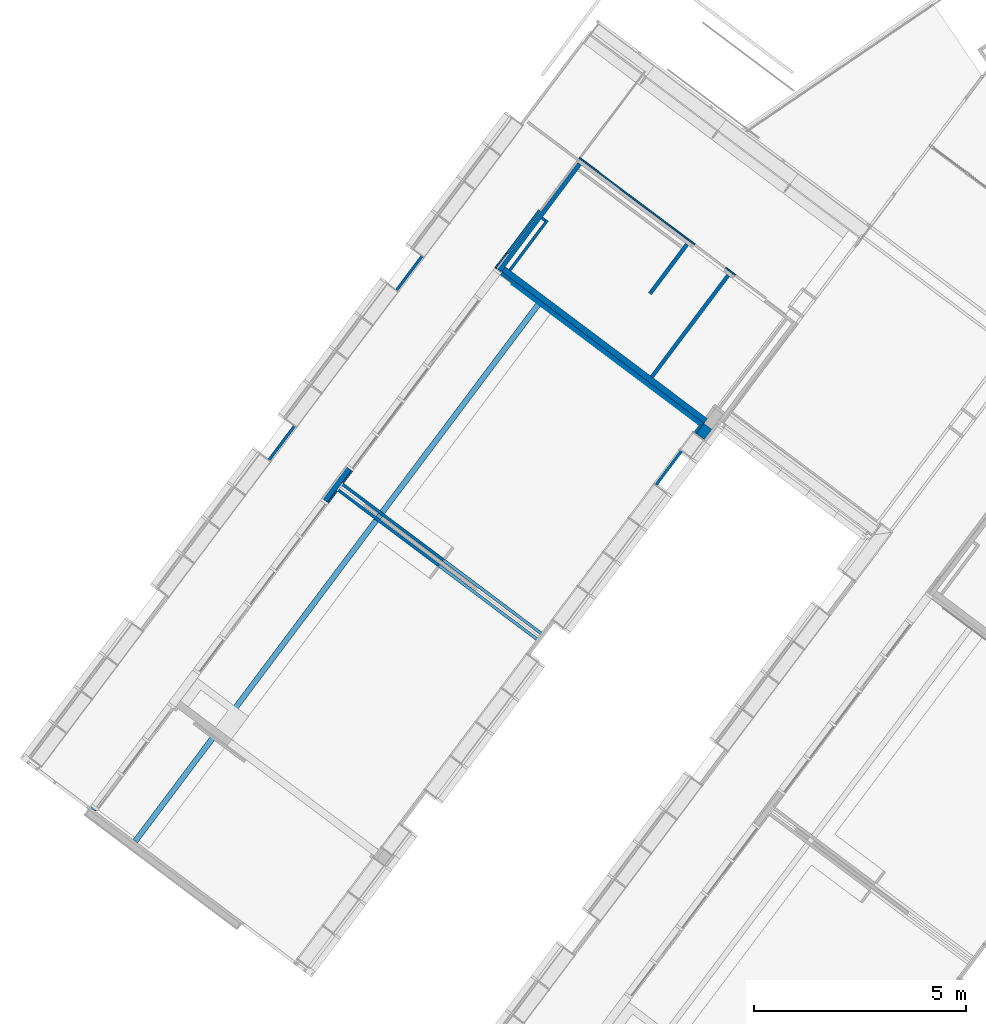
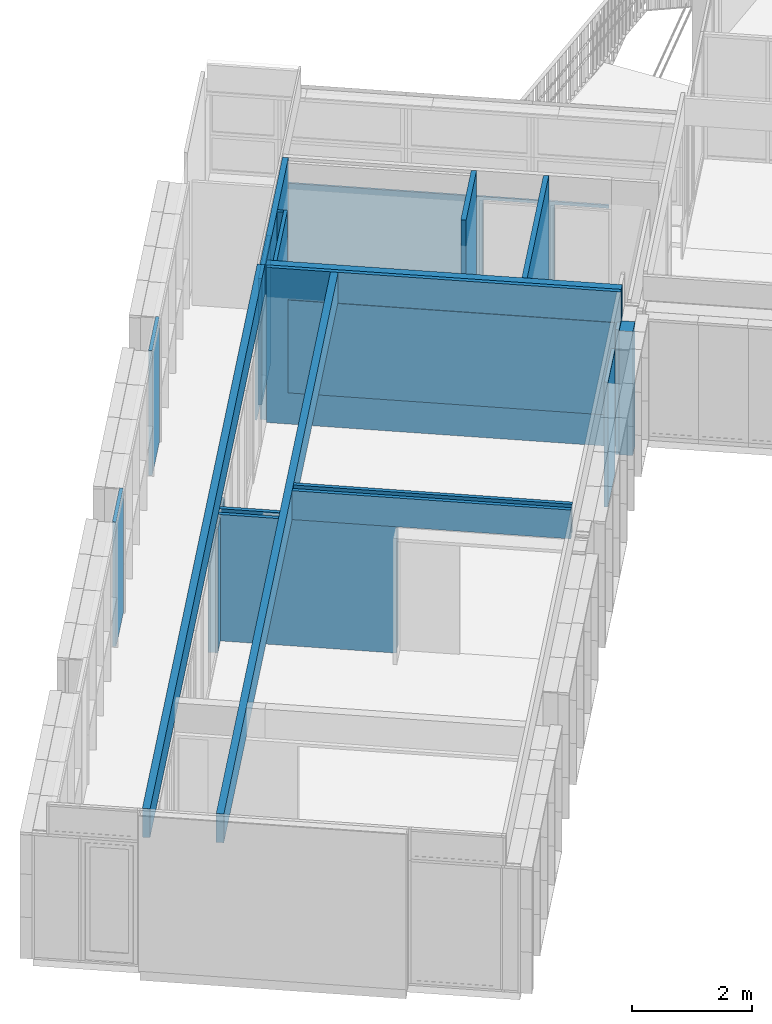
# One storey, part 128 of 243: 25 walls, 2 openings.
"""IFC2X3 building model written with IfcOpenShell, lengths in metres."""

from ifc_helpers import new_model, entity, si_unit, converted_unit, derived_unit, direction, frame, frame_2d, origin, origin_2d_with_axis, place, context, subcontext, project, spatial, rectangle, extrude, material, layer, layer_set, layer_usage, type_object, element, save


model = new_model("IFC2X3")

# Units and contexts
model_context = context("Model", 3, precision=1e-05, world=origin(), true_north=direction((6.123031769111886e-17, 1.0)))
body_context = subcontext(model_context, "Body", "Model", "MODEL_VIEW")
ifc_project = project(units=[si_unit("LENGTHUNIT", "METRE"), si_unit("AREAUNIT", "SQUARE_METRE"), si_unit("VOLUMEUNIT", "CUBIC_METRE"), converted_unit("PLANEANGLEUNIT", "DEGREE", entity("IfcRatioMeasure", 0.017453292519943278), si_unit("PLANEANGLEUNIT", "RADIAN"), dimensions=[0, 0, 0, 0, 0, 0, 0]), si_unit("MASSUNIT", "GRAM", prefix="KILO"), derived_unit("MASSDENSITYUNIT", [(si_unit("MASSUNIT", "GRAM", prefix="KILO"), 1), (si_unit("LENGTHUNIT", "METRE"), -3)]), derived_unit("IONCONCENTRATIONUNIT", [(si_unit("MASSUNIT", "GRAM", prefix="KILO"), 1), (si_unit("LENGTHUNIT", "METRE"), -3)]), derived_unit("MOMENTOFINERTIAUNIT", [(si_unit("LENGTHUNIT", "METRE"), 4)]), si_unit("TIMEUNIT", "SECOND"), si_unit("FREQUENCYUNIT", "HERTZ"), si_unit("THERMODYNAMICTEMPERATUREUNIT", "DEGREE_CELSIUS"), derived_unit("THERMALTRANSMITTANCEUNIT", [(si_unit("MASSUNIT", "GRAM", prefix="KILO"), 1), (si_unit("THERMODYNAMICTEMPERATUREUNIT", "KELVIN"), -1), (si_unit("TIMEUNIT", "SECOND"), -3)]), derived_unit("THERMALCONDUCTANCEUNIT", [(si_unit("MASSUNIT", "GRAM", prefix="KILO"), 1), (si_unit("THERMODYNAMICTEMPERATUREUNIT", "KELVIN"), -1), (si_unit("TIMEUNIT", "SECOND"), -3), (si_unit("LENGTHUNIT", "METRE"), 1)]), derived_unit("VOLUMETRICFLOWRATEUNIT", [(si_unit("LENGTHUNIT", "METRE"), 3), (si_unit("TIMEUNIT", "SECOND"), -1)]), derived_unit("MASSFLOWRATEUNIT", [(si_unit("MASSUNIT", "GRAM", prefix="KILO"), 1), (si_unit("TIMEUNIT", "SECOND"), -1)]), derived_unit("ROTATIONALFREQUENCYUNIT", [(si_unit("TIMEUNIT", "SECOND"), -1)]), si_unit("ELECTRICCURRENTUNIT", "AMPERE"), si_unit("ELECTRICVOLTAGEUNIT", "VOLT"), si_unit("POWERUNIT", "WATT"), si_unit("FORCEUNIT", "NEWTON", prefix="KILO"), si_unit("ILLUMINANCEUNIT", "LUX"), si_unit("LUMINOUSFLUXUNIT", "LUMEN"), si_unit("LUMINOUSINTENSITYUNIT", "CANDELA"), derived_unit("USERDEFINED", [(si_unit("MASSUNIT", "GRAM", prefix="KILO"), -1), (si_unit("LENGTHUNIT", "METRE"), -2), (si_unit("TIMEUNIT", "SECOND"), 3), (si_unit("LUMINOUSFLUXUNIT", "LUMEN"), 1)]), derived_unit("USERDEFINED", [(si_unit("MASSUNIT", "GRAM", prefix="KILO"), 1), (si_unit("TIMEUNIT", "SECOND"), -3), (si_unit("LENGTHUNIT", "METRE"), 3), (si_unit("ELECTRICCURRENTUNIT", "AMPERE"), -2)]), derived_unit("SOUNDPOWERUNIT", [(si_unit("MASSUNIT", "GRAM", prefix="KILO"), 1), (si_unit("TIMEUNIT", "SECOND"), -3), (si_unit("LENGTHUNIT", "METRE"), 2)]), derived_unit("SOUNDPRESSUREUNIT", [(si_unit("MASSUNIT", "GRAM", prefix="KILO"), 1), (si_unit("LENGTHUNIT", "METRE"), -1), (si_unit("TIMEUNIT", "SECOND"), -2)]), derived_unit("LINEARVELOCITYUNIT", [(si_unit("LENGTHUNIT", "METRE"), 1), (si_unit("TIMEUNIT", "SECOND"), -1)]), si_unit("PRESSUREUNIT", "PASCAL"), derived_unit("USERDEFINED", [(si_unit("MASSUNIT", "GRAM", prefix="KILO"), 1), (si_unit("LENGTHUNIT", "METRE"), -2), (si_unit("TIMEUNIT", "SECOND"), -2)]), derived_unit("LINEARFORCEUNIT", [(si_unit("MASSUNIT", "GRAM", prefix="KILO"), 1), (si_unit("TIMEUNIT", "SECOND"), -2)]), derived_unit("PLANARFORCEUNIT", [(si_unit("MASSUNIT", "GRAM", prefix="KILO"), 1), (si_unit("LENGTHUNIT", "METRE"), -1), (si_unit("TIMEUNIT", "SECOND"), -2)]), derived_unit("SPECIFICHEATCAPACITYUNIT", [(si_unit("THERMODYNAMICTEMPERATUREUNIT", "KELVIN"), -1), (si_unit("LENGTHUNIT", "METRE"), 2), (si_unit("TIMEUNIT", "SECOND"), -2)]), derived_unit("HEATINGVALUEUNIT", [(si_unit("LENGTHUNIT", "METRE"), 2), (si_unit("TIMEUNIT", "SECOND"), -2)]), derived_unit("VAPORPERMEABILITYUNIT", [(si_unit("LENGTHUNIT", "METRE"), -1), (si_unit("TIMEUNIT", "SECOND"), 1)]), derived_unit("DYNAMICVISCOSITYUNIT", [(si_unit("MASSUNIT", "GRAM", prefix="KILO"), 1), (si_unit("TIMEUNIT", "SECOND"), -1), (si_unit("LENGTHUNIT", "METRE"), -1)]), derived_unit("THERMALEXPANSIONCOEFFICIENTUNIT", [(si_unit("THERMODYNAMICTEMPERATUREUNIT", "KELVIN"), -1)]), derived_unit("MODULUSOFELASTICITYUNIT", [(si_unit("MASSUNIT", "GRAM", prefix="KILO"), 1), (si_unit("LENGTHUNIT", "METRE"), -1), (si_unit("TIMEUNIT", "SECOND"), -2)]), derived_unit("ISOTHERMALMOISTURECAPACITYUNIT", [(si_unit("LENGTHUNIT", "METRE"), 3), (si_unit("MASSUNIT", "GRAM", prefix="KILO"), -1)]), derived_unit("MOISTUREDIFFUSIVITYUNIT", [(si_unit("TIMEUNIT", "SECOND"), -1), (si_unit("LENGTHUNIT", "METRE"), 2)])], contexts=[model_context])

# Site, building, storey
site_placement = place(None, frame((0.0, 0.0, 235.0), z_axis=(0.0, 0.0, 1.0), x_axis=(-0.7996477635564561, 0.6004693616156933, 0.0)))
site = spatial("IfcSite", under=ifc_project, at=site_placement, Name="Default", CompositionType="ELEMENT")
building_placement = place(site_placement, origin())
building = spatial("IfcBuilding", under=site, at=building_placement, CompositionType="ELEMENT")
storey_placement = place(building_placement, origin())
storey = spatial("IfcBuildingStorey", under=building, at=storey_placement, Name="P0- Escola", CompositionType="ELEMENT", Elevation=0.0)

# Walls
ifc_material_1 = material(Name="_Enguixat i pintat- REV")
ifc_layer_1 = layer(ifc_material_1, 0.01)
ifc_material_2 = material(Name="_Ceràmica- ENV")
ifc_layer_2 = layer(ifc_material_2, 0.09)
ifc_layer_set_1 = layer_set([ifc_layer_1, ifc_layer_2], Name="Muro básico:ENV- Ceràmic- 9 cm + Arrebossat i pintat")
ifc_layer_usage_1 = layer_usage(ifc_layer_set_1, "AXIS2", "POSITIVE", -0.049999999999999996)
wall_type_1 = type_object("IfcWallType", Name="Muro básico:ENV- Ceràmic- 9 cm + Arrebossat i pintat", PredefinedType="STANDARD", material=ifc_layer_set_1)
wall_1_placement = place(storey_placement, frame((72.75014768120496, -39.38019175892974, 0.0), z_axis=(0.0, 0.0, 1.0), x_axis=(0.0, 1.0, 0.0)))
element("IfcWallStandardCase", 1, at=wall_1_placement, inside=storey, type_object=wall_type_1, material=ifc_layer_usage_1, Name="Muro básico:ENV- Ceràmic- 9 cm + Arrebossat i pintat", ObjectType="Muro básico:ENV- Ceràmic- 9 cm + Arrebossat i pintat", context=body_context, shape_type="SweptSolid", body=[
    extrude(rectangle(XDim=3.130000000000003, YDim=0.0999999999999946, at=frame_2d((1.5650000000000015, 0.0), x_axis=(-1.0, 0.0))), origin(), (0.0, 0.0, 1.0), 3.150000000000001),
])
ifc_layer_3 = layer(ifc_material_2, 0.14)
ifc_layer_set_2 = layer_set([ifc_layer_3], Name="Muro básico:ENV- Ceràmic- 14 cm")
ifc_layer_usage_2 = layer_usage(ifc_layer_set_2, "AXIS2", "NEGATIVE", 0.07)
wall_type_2 = type_object("IfcWallType", Name="Muro básico:ENV- Ceràmic- 14 cm", PredefinedType="STANDARD", material=ifc_layer_set_2)
wall_2_placement = place(storey_placement, frame((72.70014768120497, -36.32019175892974, 0.0), z_axis=(0.0, 0.0, 1.0), x_axis=(-1.0, 0.0, 0.0)))
element("IfcWallStandardCase", 2, at=wall_2_placement, inside=storey, type_object=wall_type_2, material=ifc_layer_usage_2, Name="Muro básico:ENV- Ceràmic- 14 cm", ObjectType="Muro básico:ENV- Ceràmic- 14 cm", context=body_context, shape_type="SweptSolid", body=[
    extrude(rectangle(XDim=5.955000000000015, YDim=0.14000000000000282, at=frame_2d((2.9775000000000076, -4.0245584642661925e-16), x_axis=(-1.0, 0.0))), origin(), (0.0, 0.0, 1.0), 3.150000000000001),
])
ifc_material_3 = material(Name="_Fusta massisa- T1-  REV- PAV")
ifc_layer_4 = layer(ifc_material_3, 0.015)
ifc_material_4 = material(Name="_Genèric perfils, muntants, rastrells")
ifc_layer_5 = layer(ifc_material_4, 0.05)
ifc_layer_set_3 = layer_set([ifc_layer_4, ifc_layer_5], Name="Muro básico:REV- Fusta- T1- 6,5 cm")
ifc_layer_usage_3 = layer_usage(ifc_layer_set_3, "AXIS2", "NEGATIVE", 0.0325)
wall_type_3 = type_object("IfcWallType", Name="Muro básico:REV- Fusta- T1- 6,5 cm", PredefinedType="STANDARD", material=ifc_layer_set_3)
wall_3_placement = place(storey_placement, frame((72.84764768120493, -36.67018997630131, 0.0), z_axis=(0.0, 0.0, 1.0), x_axis=(0.0, -1.0, 0.0)))
element("IfcWallStandardCase", 3, at=wall_3_placement, inside=storey, type_object=wall_type_3, material=ifc_layer_usage_3, Name="Muro básico:REV- Fusta- T1- 6,5 cm", ObjectType="Muro básico:REV- Fusta- T1- 6,5 cm", context=body_context, shape_type="SweptSolid", body=[
    extrude(rectangle(XDim=1.2699999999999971, YDim=0.06500000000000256, at=frame_2d((0.6349999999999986, 0.0), x_axis=(-1.0, 0.0))), origin(), (0.0, 0.0, 1.0), 2.565),
])
ifc_layer_6 = layer(ifc_material_2, 0.09)
ifc_layer_set_4 = layer_set([ifc_layer_6], Name="Muro básico:ENV- Ceràmic- 9 cm")
ifc_layer_usage_4 = layer_usage(ifc_layer_set_4, "AXIS2", "NEGATIVE", 0.045)
wall_type_4 = type_object("IfcWallType", Name="Muro básico:ENV- Ceràmic- 9 cm", PredefinedType="STANDARD", material=ifc_layer_set_4)
wall_4_placement = place(storey_placement, frame((68.38314768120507, -39.380191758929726, 0.0), z_axis=(0.0, 0.0, 1.0), x_axis=(0.0, 1.0, 0.0)))
element("IfcWallStandardCase", 4, at=wall_4_placement, inside=storey, type_object=wall_type_4, material=ifc_layer_usage_4, Name="Muro básico:ENV- Ceràmic- 9 cm", ObjectType="Muro básico:ENV- Ceràmic- 9 cm", context=body_context, shape_type="SweptSolid", body=[
    extrude(rectangle(XDim=2.9900000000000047, YDim=0.08999999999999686, at=frame_2d((1.4950000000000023, 0.0), x_axis=(-1.0, 0.0))), origin(), (0.0, 0.0, 1.0), 3.150000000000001),
])
ifc_layer_usage_5 = layer_usage(ifc_layer_set_4, "AXIS2", "POSITIVE", -0.045)
wall_5_placement = place(storey_placement, frame((69.59314768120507, -37.93019175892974, 0.0), z_axis=(0.0, 0.0, 1.0), x_axis=(0.0, -1.0, 0.0)))
element("IfcWallStandardCase", 5, at=wall_5_placement, inside=storey, type_object=wall_type_4, material=ifc_layer_usage_5, Name="Muro básico:ENV- Ceràmic- 9 cm", ObjectType="Muro básico:ENV- Ceràmic- 9 cm", context=body_context, shape_type="SweptSolid", body=[
    extrude(rectangle(XDim=1.4499999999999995, YDim=0.08999999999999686, at=frame_2d((0.7249999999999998, 0.0), x_axis=(-1.0, 0.0))), origin(), (0.0, 0.0, 1.0), 3.150000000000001),
])

# Wall, openings
ifc_layer_7 = layer(ifc_material_3, 0.015)
ifc_layer_8 = layer(ifc_material_4, 0.02)
ifc_layer_set_5 = layer_set([ifc_layer_7, ifc_layer_8], Name="Muro básico:REV- Fusta- T1- 3,5 cm")
ifc_layer_usage_6 = layer_usage(ifc_layer_set_5, "AXIS2", "POSITIVE", -0.0175)
wall_type_5 = type_object("IfcWallType", Name="Muro básico:REV- Fusta- T1- 3,5 cm", PredefinedType="STANDARD", material=ifc_layer_set_5)
wall_6_placement = place(storey_placement, frame((67.34314768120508, -39.48769175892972, 0.0)))
wall_6 = element("IfcWallStandardCase", 6, at=wall_6_placement, inside=storey, type_object=wall_type_5, material=ifc_layer_usage_6, Name="Muro básico:REV- Fusta- T1- 3,5 cm", ObjectType="Muro básico:REV- Fusta- T1- 3,5 cm", context=body_context, shape_type="SweptSolid", body=[
    extrude(rectangle(XDim=5.504499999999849, YDim=0.03499999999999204, at=frame_2d((2.7522499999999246, -1.2160411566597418e-15), x_axis=(-1.0, 0.0))), origin(), (0.0, 0.0, 1.0), 2.565),
])
opening_1_placement = place(wall_6_placement, frame((0.0, -1.5065000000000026, 0.0)))
element("IfcOpeningElement", 7, at=opening_1_placement, cuts=wall_6, Name="Muro básico:REV- Fusta- T1- 3,5 cm", ObjectType="Opening", context=body_context, shape_type="SweptSolid", body=[
    extrude(rectangle(XDim=2.5049999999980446, YDim=0.9095950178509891, at=origin_2d_with_axis()), frame((0.4547975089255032, 0.0, 1.2524999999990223), z_axis=(0.0, 1.0, 0.0), x_axis=(0.0, 0.0, 1.0)), (0.0, 0.0, 1.0), 3.048),
])
opening_2_placement = place(wall_6_placement, frame((1.189408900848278, -1.5065000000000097, 0.0)))
element("IfcOpeningElement", 8, at=opening_2_placement, cuts=wall_6, Name="Muro básico:REV- Fusta- T1- 3,5 cm", ObjectType="Opening", context=body_context, shape_type="SweptSolid", body=[
    extrude(rectangle(XDim=2.5049999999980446, YDim=0.9188809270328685, at=frame_2d((0.0, -4.3298697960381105e-15), x_axis=(1.0, 0.0))), frame((0.4594404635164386, 0.0, 1.2524999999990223), z_axis=(0.0, 1.0, 0.0), x_axis=(0.0, 0.0, 1.0)), (0.0, 0.0, 1.0), 3.0479999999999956),
])

# Walls
ifc_layer_usage_7 = layer_usage(ifc_layer_set_5, "AXIS2", "NEGATIVE", 0.0175)
wall_7_placement = place(storey_placement, frame((72.862647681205, -36.22018997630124, 0.0), z_axis=(0.0, 0.0, 1.0), x_axis=(0.0, -1.0, 0.0)))
element("IfcWallStandardCase", 9, at=wall_7_placement, inside=storey, type_object=wall_type_5, material=ifc_layer_usage_7, Name="Muro básico:REV- Fusta- T1- 3,5 cm", ObjectType="Muro básico:REV- Fusta- T1- 3,5 cm", context=body_context, shape_type="SweptSolid", body=[
    extrude(rectangle(XDim=0.4500000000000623, YDim=0.034999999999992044, at=frame_2d((0.22500000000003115, 0.0), x_axis=(-1.0, 0.0))), origin(), (0.0, 0.0, 1.0), 2.565),
])
wall_8_placement = place(storey_placement, frame((72.69764768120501, -30.034189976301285, 0.0), z_axis=(0.0, 0.0, 1.0), x_axis=(0.0, -1.0, 0.0)))
element("IfcWallStandardCase", 10, at=wall_8_placement, inside=storey, type_object=wall_type_5, material=ifc_layer_usage_6, Name="Muro básico:REV- Fusta- T1- 3,5 cm", ObjectType="Muro básico:REV- Fusta- T1- 3,5 cm", context=body_context, shape_type="SweptSolid", body=[
    extrude(rectangle(XDim=0.35099999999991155, YDim=0.034999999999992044, at=frame_2d((0.17549999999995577, 0.0), x_axis=(-1.0, 0.0))), origin(), (0.0, 0.0, 1.0), 2.5049999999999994),
])
wall_9_placement = place(storey_placement, frame((72.69764768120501, -29.796186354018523, 0.0), z_axis=(0.0, 0.0, 1.0), x_axis=(0.0, 1.0, 0.0)))
element("IfcWallStandardCase", 11, at=wall_9_placement, inside=storey, type_object=wall_type_5, material=ifc_layer_usage_7, Name="Muro básico:REV- Fusta- T1- 3,5 cm", ObjectType="Muro básico:REV- Fusta- T1- 3,5 cm", context=body_context, shape_type="SweptSolid", body=[
    extrude(rectangle(XDim=0.35099999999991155, YDim=0.034999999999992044, at=frame_2d((0.17549999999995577, -3.1970953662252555e-15), x_axis=(-1.0, 0.0))), origin(), (0.0, 0.0, 1.0), 2.5049999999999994),
])
ifc_material_5 = material(Name="_Guix laminat- ENV")
ifc_layer_9 = layer(ifc_material_5, 0.02)
ifc_material_6 = material(Name="_Aillament")
ifc_layer_10 = layer(ifc_material_6, 0.045)
ifc_layer_set_6 = layer_set([ifc_layer_9, ifc_layer_10], Name="Muro básico:REV- Guix Laminat Extradossat- Aillament- T1- 6,5 cm")
ifc_layer_usage_8 = layer_usage(ifc_layer_set_6, "AXIS2", "POSITIVE", -0.032499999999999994)
wall_type_6 = type_object("IfcWallType", Name="Muro básico:REV- Guix Laminat Extradossat- Aillament- T1- 6,5 cm", PredefinedType="STANDARD", material=ifc_layer_set_6)
wall_10_placement = place(storey_placement, frame((72.56264768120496, -36.39019175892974, 0.0), z_axis=(0.0, 0.0, 1.0), x_axis=(0.0, -1.0, 0.0)))
element("IfcWallStandardCase", 12, at=wall_10_placement, inside=storey, type_object=wall_type_6, material=ifc_layer_usage_8, Name="Muro básico:REV- Guix Laminat Extradossat- Aillament- T1- 6,5 cm", ObjectType="Muro básico:REV- Guix Laminat Extradossat- Aillament- T1- 6,5 cm", context=body_context, shape_type="SweptSolid", body=[
    extrude(rectangle(XDim=1.4699999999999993, YDim=0.06500000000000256, at=frame_2d((0.7349999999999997, 0.0), x_axis=(-1.0, 0.0))), origin(), (0.0, 0.0, 1.0), 3.150000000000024),
])
wall_11_placement = place(storey_placement, frame((72.59514768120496, -37.82769175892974, 0.0)))
element("IfcWallStandardCase", 13, at=wall_11_placement, inside=storey, type_object=wall_type_6, material=ifc_layer_usage_8, Name="Muro básico:REV- Guix Laminat Extradossat- Aillament- T1- 6,5 cm", ObjectType="Muro básico:REV- Guix Laminat Extradossat- Aillament- T1- 6,5 cm", context=body_context, shape_type="SweptSolid", body=[
    extrude(rectangle(XDim=0.10500000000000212, YDim=0.06500000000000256, at=frame_2d((0.05250000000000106, 0.0), x_axis=(-1.0, 0.0))), origin(), (0.0, 0.0, 1.0), 3.150000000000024),
])
wall_12_placement = place(storey_placement, frame((74.412647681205, -29.42019175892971, 0.0), z_axis=(0.0, 0.0, 1.0), x_axis=(0.0, -1.0, 0.0)))
element("IfcWallStandardCase", 14, at=wall_12_placement, inside=storey, type_object=wall_type_6, material=ifc_layer_usage_8, Name="Muro básico:REV- Guix Laminat Extradossat- Aillament- T1- 6,5 cm", ObjectType="Muro básico:REV- Guix Laminat Extradossat- Aillament- T1- 6,5 cm", context=body_context, shape_type="SweptSolid", body=[
    extrude(rectangle(XDim=0.9900000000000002, YDim=0.06500000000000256, at=frame_2d((0.4950000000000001, -1.4467593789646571e-15), x_axis=(-1.0, 0.0))), origin(), (0.0, 0.0, 1.0), 2.535000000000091),
])
ifc_layer_usage_9 = layer_usage(ifc_layer_set_6, "AXIS2", "NEGATIVE", 0.032499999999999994)
wall_13_placement = place(storey_placement, frame((66.77764768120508, -34.420191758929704, 0.0), z_axis=(0.0, 0.0, 1.0), x_axis=(0.0, -1.0, 0.0)))
element("IfcWallStandardCase", 15, at=wall_13_placement, inside=storey, type_object=wall_type_6, material=ifc_layer_usage_9, Name="Muro básico:REV- Guix Laminat Extradossat- Aillament- T1- 6,5 cm", ObjectType="Muro básico:REV- Guix Laminat Extradossat- Aillament- T1- 6,5 cm", context=body_context, shape_type="SweptSolid", body=[
    extrude(rectangle(XDim=0.9900000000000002, YDim=0.06500000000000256, at=frame_2d((0.4950000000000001, -1.4467593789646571e-15), x_axis=(-1.0, 0.0))), origin(), (0.0, 0.0, 1.0), 2.535000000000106),
])
wall_14_placement = place(storey_placement, frame((66.77764768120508, -35.95318997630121, 0.0), z_axis=(0.0, 0.0, 1.0), x_axis=(0.0, -1.0, 0.0)))
element("IfcWallStandardCase", 16, at=wall_14_placement, inside=storey, type_object=wall_type_6, material=ifc_layer_usage_9, Name="Muro básico:REV- Guix Laminat Extradossat- Aillament- T1- 6,5 cm", ObjectType="Muro básico:REV- Guix Laminat Extradossat- Aillament- T1- 6,5 cm", context=body_context, shape_type="SweptSolid", body=[
    extrude(rectangle(XDim=0.22200178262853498, YDim=0.06500000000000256, at=frame_2d((0.11100089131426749, 0.0), x_axis=(-1.0, 0.0))), origin(), (0.0, 0.0, 1.0), 2.535000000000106),
])
wall_15_placement = place(storey_placement, frame((74.41264768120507, -35.4101917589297, 0.0), z_axis=(0.0, 0.0, 1.0), x_axis=(0.0, 1.0, 0.0)))
element("IfcWallStandardCase", 17, at=wall_15_placement, inside=storey, type_object=wall_type_6, material=ifc_layer_usage_9, Name="Muro básico:REV- Guix Laminat Extradossat- Aillament- T1- 6,5 cm", ObjectType="Muro básico:REV- Guix Laminat Extradossat- Aillament- T1- 6,5 cm", context=body_context, shape_type="SweptSolid", body=[
    extrude(rectangle(XDim=0.9900000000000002, YDim=0.06500000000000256, at=frame_2d((0.4950000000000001, 0.0), x_axis=(-1.0, 0.0))), origin(), (0.0, 0.0, 1.0), 2.535000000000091),
])
ifc_layer_11 = layer(ifc_material_2, 0.23)
ifc_layer_set_7 = layer_set([ifc_layer_11], Name="Muro básico:ENV- Ceràmic Replè- 23 cm")
ifc_layer_usage_10 = layer_usage(ifc_layer_set_7, "AXIS2", "POSITIVE", -0.115)
wall_type_7 = type_object("IfcWallType", Name="Muro básico:ENV- Ceràmic Replè- 23 cm", PredefinedType="STANDARD", material=ifc_layer_set_7)
wall_16_placement = place(storey_placement, frame((66.63014768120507, -35.9531899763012, 0.0), z_axis=(0.0, 0.0, 1.0), x_axis=(0.0, -1.0, 0.0)))
element("IfcWallStandardCase", 18, at=wall_16_placement, inside=storey, type_object=wall_type_7, material=ifc_layer_usage_10, Name="Muro básico:ENV- Ceràmic Replè- 23 cm", ObjectType="Muro básico:ENV- Ceràmic Replè- 23 cm", context=body_context, shape_type="SweptSolid", body=[
    extrude(rectangle(XDim=0.2970017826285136, YDim=0.2299999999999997, at=frame_2d((0.1485008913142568, 0.0), x_axis=(-1.0, 0.0))), origin(), (0.0, 0.0, 1.0), 2.514054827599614),
])
ifc_layer_12 = layer(ifc_material_5, 0.03)
ifc_layer_13 = layer(ifc_material_6, 0.045)
ifc_layer_set_8 = layer_set([ifc_layer_12, ifc_layer_13], Name="Muro básico:REV- Guix Laminat Extradossat- Aillament- T1- 7,5 cm")
ifc_layer_usage_11 = layer_usage(ifc_layer_set_8, "AXIS2", "POSITIVE", -0.0375)
wall_type_8 = type_object("IfcWallType", Name="Muro básico:REV- Guix Laminat Extradossat- Aillament- T1- 7,5 cm", PredefinedType="STANDARD", material=ifc_layer_set_8)
wall_17_placement = place(storey_placement, frame((72.680147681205, -36.21269175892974, 0.0), z_axis=(0.0, 0.0, 1.0), x_axis=(-1.0, 0.0, 0.0)))
element("IfcWallStandardCase", 19, at=wall_17_placement, inside=storey, type_object=wall_type_8, material=ifc_layer_usage_11, Name="Muro básico:REV- Guix Laminat Extradossat- Aillament- T1- 7,5 cm", ObjectType="Muro básico:REV- Guix Laminat Extradossat- Aillament- T1- 7,5 cm", context=body_context, shape_type="SweptSolid", body=[
    extrude(rectangle(XDim=5.934999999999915, YDim=0.07500000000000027, at=frame_2d((2.9674999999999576, 0.0), x_axis=(-1.0, 0.0))), origin(), (0.0, 0.0, 1.0), 3.150000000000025),
])
ifc_layer_14 = layer(ifc_material_5, 0.03)
ifc_layer_15 = layer(ifc_material_4, 0.07)
ifc_layer_16 = layer(ifc_material_5, 0.03)
ifc_layer_set_9 = layer_set([ifc_layer_14, ifc_layer_15, ifc_layer_16], Name="Muro básico:ENV- Guix Laminat- 13 cm")
ifc_layer_usage_12 = layer_usage(ifc_layer_set_9, "AXIS2", "NEGATIVE", 0.06499999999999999)
wall_type_9 = type_object("IfcWallType", Name="Muro básico:ENV- Guix Laminat- 13 cm", PredefinedType="STANDARD", material=ifc_layer_set_9)
wall_18_placement = place(storey_placement, frame((72.78014768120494, -20.35394175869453, 2.565), z_axis=(0.0, 0.0, 1.0), x_axis=(0.0, -1.0, 0.0)))
element("IfcWallStandardCase", 20, at=wall_18_placement, inside=storey, type_object=wall_type_9, material=ifc_layer_usage_12, Name="Muro básico:ENV- Guix Laminat- 13 cm", ObjectType="Muro básico:ENV- Guix Laminat- 13 cm", context=body_context, shape_type="SweptSolid", body=[
    extrude(rectangle(XDim=15.896250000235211, YDim=0.1300000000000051, at=frame_2d((7.948125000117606, 0.0), x_axis=(-1.0, 0.0))), origin(), (0.0, 0.0, 1.0), 0.5850000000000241),
])
wall_19_placement = place(storey_placement, frame((71.54314768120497, -20.353941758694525, 2.565), z_axis=(0.0, 0.0, 1.0), x_axis=(0.0, -1.0, 0.0)))
element("IfcWallStandardCase", 21, at=wall_19_placement, inside=storey, type_object=wall_type_9, material=ifc_layer_usage_12, Name="Muro básico:ENV- Guix Laminat- 13 cm", ObjectType="Muro básico:ENV- Guix Laminat- 13 cm", context=body_context, shape_type="SweptSolid", body=[
    extrude(rectangle(XDim=15.821250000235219, YDim=0.1300000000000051, at=frame_2d((7.9106250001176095, 0.0), x_axis=(-1.0, 0.0))), origin(), (0.0, 0.0, 1.0), 0.5850000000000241),
])
wall_20_placement = place(storey_placement, frame((72.780147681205, -29.445189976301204, 0.0), z_axis=(0.0, 0.0, 1.0), x_axis=(0.0, -1.0, 0.0)))
element("IfcWallStandardCase", 22, at=wall_20_placement, inside=storey, type_object=wall_type_9, material=ifc_layer_usage_12, Name="Muro básico:ENV- Guix Laminat- 13 cm", ObjectType="Muro básico:ENV- Guix Laminat- 13 cm", context=body_context, shape_type="SweptSolid", body=[
    extrude(rectangle(XDim=0.9399999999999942, YDim=0.1300000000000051, at=frame_2d((0.4699999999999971, 0.0), x_axis=(-1.0, 0.0))), origin(), (0.0, 0.0, 1.0), 2.5049999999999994),
])
ifc_layer_17 = layer(ifc_material_5, 0.015)
ifc_layer_18 = layer(ifc_material_4, 0.055)
ifc_layer_set_10 = layer_set([ifc_layer_17, ifc_layer_18], Name="Muro básico:ENV- Guix Laminat una cara- 7 cm")
ifc_layer_usage_13 = layer_usage(ifc_layer_set_10, "AXIS2", "POSITIVE", -0.035)
wall_type_10 = type_object("IfcWallType", Name="Muro básico:ENV- Guix Laminat una cara- 7 cm", PredefinedType="STANDARD", material=ifc_layer_set_10)
wall_21_placement = place(storey_placement, frame((72.71514768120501, -29.83118997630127, 0.0), z_axis=(0.0, 0.0, 1.0), x_axis=(-1.0, 0.0, 0.0)))
element("IfcWallStandardCase", 23, at=wall_21_placement, inside=storey, type_object=wall_type_10, material=ifc_layer_usage_13, Name="Muro básico:ENV- Guix Laminat una cara- 7 cm", ObjectType="Muro básico:ENV- Guix Laminat una cara- 7 cm", context=body_context, shape_type="SweptSolid", body=[
    extrude(rectangle(XDim=2.986999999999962, YDim=0.07000000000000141, at=frame_2d((1.493499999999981, 0.0), x_axis=(-1.0, 0.0))), origin(), (0.0, 0.0, 1.0), 2.5650000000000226),
])
ifc_layer_usage_14 = layer_usage(ifc_layer_set_10, "AXIS2", "NEGATIVE", 0.035)
wall_22_placement = place(storey_placement, frame((72.71514768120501, -29.999189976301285, 0.0), z_axis=(0.0, 0.0, 1.0), x_axis=(-1.0, 0.0, 0.0)))
element("IfcWallStandardCase", 24, at=wall_22_placement, inside=storey, type_object=wall_type_10, material=ifc_layer_usage_14, Name="Muro básico:ENV- Guix Laminat una cara- 7 cm", ObjectType="Muro básico:ENV- Guix Laminat una cara- 7 cm", context=body_context, shape_type="SweptSolid", body=[
    extrude(rectangle(XDim=2.9869999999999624, YDim=0.07000000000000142, at=frame_2d((1.4934999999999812, 9.957312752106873e-16), x_axis=(-1.0, 0.0))), origin(), (0.0, 0.0, 1.0), 2.5650000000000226),
])
wall_23_placement = place(storey_placement, frame((71.47814768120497, -29.83118997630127, 2.5649999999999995), z_axis=(0.0, 0.0, 1.0), x_axis=(-1.0, 0.0, 0.0)))
element("IfcWallStandardCase", 25, at=wall_23_placement, inside=storey, type_object=wall_type_10, material=ifc_layer_usage_13, Name="Muro básico:ENV- Guix Laminat una cara- 7 cm", ObjectType="Muro básico:ENV- Guix Laminat una cara- 7 cm", context=body_context, shape_type="SweptSolid", body=[
    extrude(rectangle(XDim=4.670499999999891, YDim=0.07000000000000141, at=frame_2d((2.3352499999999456, 0.0), x_axis=(-1.0, 0.0))), origin(), (0.0, 0.0, 1.0), 0.5850000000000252),
])
wall_24_placement = place(storey_placement, frame((71.47814768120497, -29.999189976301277, 2.5649999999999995), z_axis=(0.0, 0.0, 1.0), x_axis=(-1.0, 0.0, 0.0)))
element("IfcWallStandardCase", 26, at=wall_24_placement, inside=storey, type_object=wall_type_10, material=ifc_layer_usage_14, Name="Muro básico:ENV- Guix Laminat una cara- 7 cm", ObjectType="Muro básico:ENV- Guix Laminat una cara- 7 cm", context=body_context, shape_type="SweptSolid", body=[
    extrude(rectangle(XDim=4.670499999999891, YDim=0.07000000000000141, at=frame_2d((2.3352499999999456, 0.0), x_axis=(-1.0, 0.0))), origin(), (0.0, 0.0, 1.0), 0.5850000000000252),
])
ifc_material_7 = material(Name="_Pissarra- T1- Rev")
ifc_layer_19 = layer(ifc_material_7, 0.01)
ifc_layer_set_11 = layer_set([ifc_layer_19], Name="Muro básico:REV- Pissarra")
ifc_layer_usage_15 = layer_usage(ifc_layer_set_11, "AXIS2", "POSITIVE", -0.005000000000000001)
wall_type_11 = type_object("IfcWallType", Name="Muro básico:REV- Pissarra", PredefinedType="STANDARD", material=ifc_layer_set_11)
wall_25_placement = place(storey_placement, frame((72.32014768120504, -36.15518997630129, 0.6500000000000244), z_axis=(0.0, 0.0, 1.0), x_axis=(-1.0, 0.0, 0.0)))
element("IfcWallStandardCase", 27, at=wall_25_placement, inside=storey, type_object=wall_type_11, material=ifc_layer_usage_15, Name="Muro básico:REV- Pissarra", ObjectType="Muro básico:REV- Pissarra", context=body_context, shape_type="SweptSolid", body=[
    extrude(rectangle(XDim=5.479999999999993, YDim=0.009999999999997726, at=frame_2d((2.7399999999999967, 7.151397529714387e-16), x_axis=(-1.0, 0.0))), origin(), (0.0, 0.0, 1.0), 1.8850000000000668),
])

save(model, "model.ifc")
